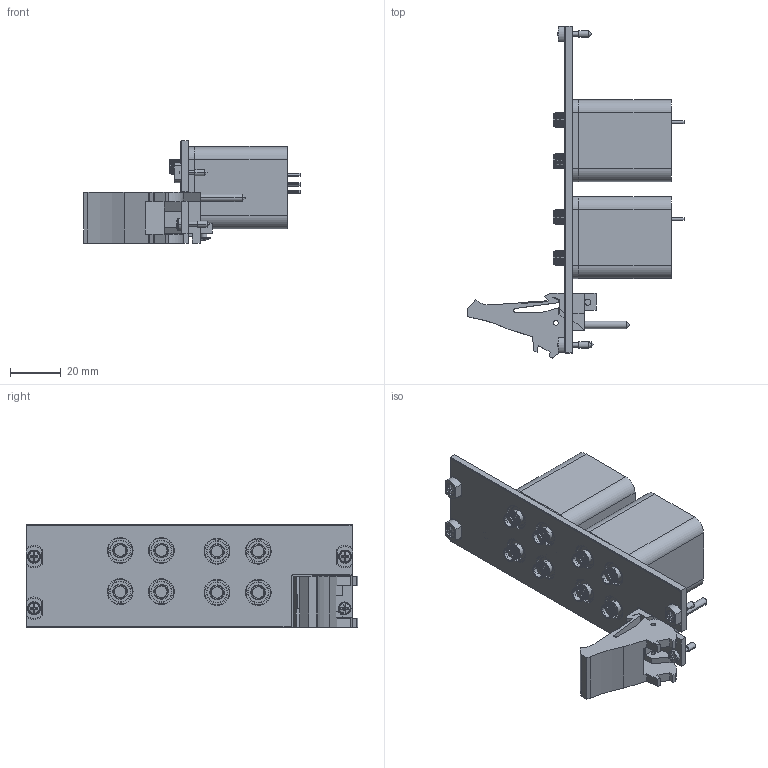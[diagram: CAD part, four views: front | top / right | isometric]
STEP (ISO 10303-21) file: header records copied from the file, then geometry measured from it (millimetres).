
FILE_DESCRIPTION((''),'2;1');
FILE_NAME('CU_PXI-2598','2009-09-09T',('jjorden'),(''),'PRO/ENGINEER BY PARAMETRIC TECHNOLOGY CORPORATION, 2006080','PRO/ENGINEER BY PARAMETRIC TECHNOLOGY CORPORATION, 2006080','');
FILE_SCHEMA(('CONFIG_CONTROL_DESIGN'));
Length unit declared in the file: inch
Products named in the file (1): CU_PXI-2598
Bounding box: 85.02 x 130.61 x 40.34 mm (x, y, z)
Volume: 102131.8 mm3; surface area: 29911.7 mm2
Topology: 1 solids, 4 shells, 1048 faces, 2384 edges, 1423 vertices
Faces by surface type: plane 393, cone 386, cylinder 241, sphere 14, torus 8, bspline 6
Entity records: 29653 total; most frequent: CARTESIAN_POINT 5553, DIRECTION 5371, ORIENTED_EDGE 4732, EDGE_CURVE 2366, AXIS2_PLACEMENT_3D 2010, VERTEX_POINT 1442, VECTOR 1351, LINE 1351
